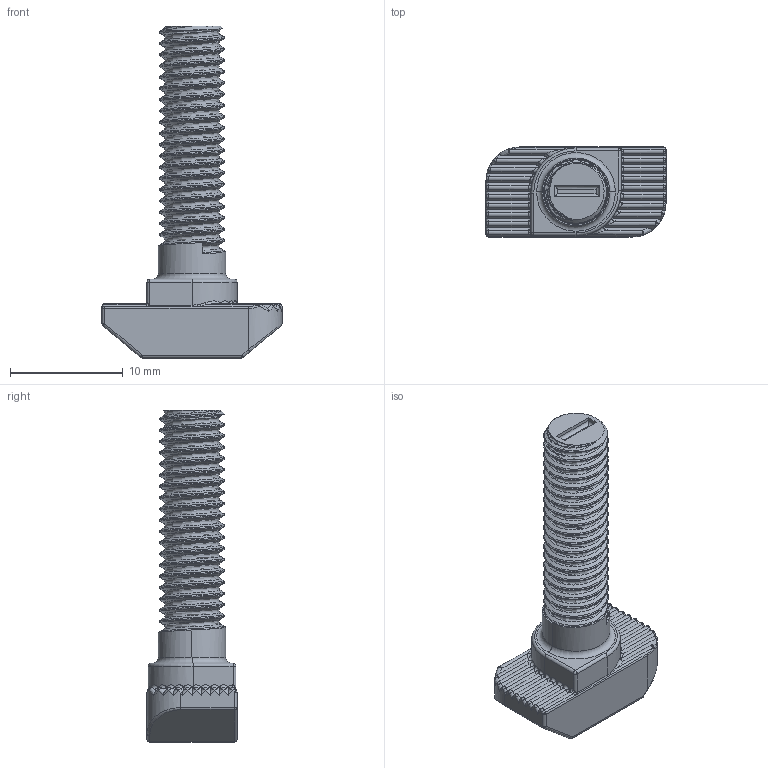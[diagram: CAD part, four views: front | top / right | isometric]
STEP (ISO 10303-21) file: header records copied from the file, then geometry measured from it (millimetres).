
FILE_DESCRIPTION (( 'STEP AP214' ), '1' );
FILE_NAME ('5024.STEP', '2016-01-21T10:05:25', ( '' ), ( '' ), 'SwSTEP 2.0', 'SolidWorks 2014', '' );
FILE_SCHEMA (( 'AUTOMOTIVE_DESIGN' ));
Length unit declared in the file: millimetre
Products named in the file (1): 5024
Bounding box: 16 x 8 x 29.5 mm (x, y, z)
Volume: 1134.6 mm3; surface area: 1016.1 mm2
Topology: 1 solids, 1 shells, 274 faces, 635 edges, 355 vertices
Faces by surface type: cylinder 94, bspline 66, plane 59, sphere 40, torus 14, cone 1
Entity records: 15366 total; most frequent: CARTESIAN_POINT 9854, ORIENTED_EDGE 1250, DIRECTION 1062, EDGE_CURVE 625, AXIS2_PLACEMENT_3D 421, VERTEX_POINT 355, EDGE_LOOP 276, ADVANCED_FACE 274
